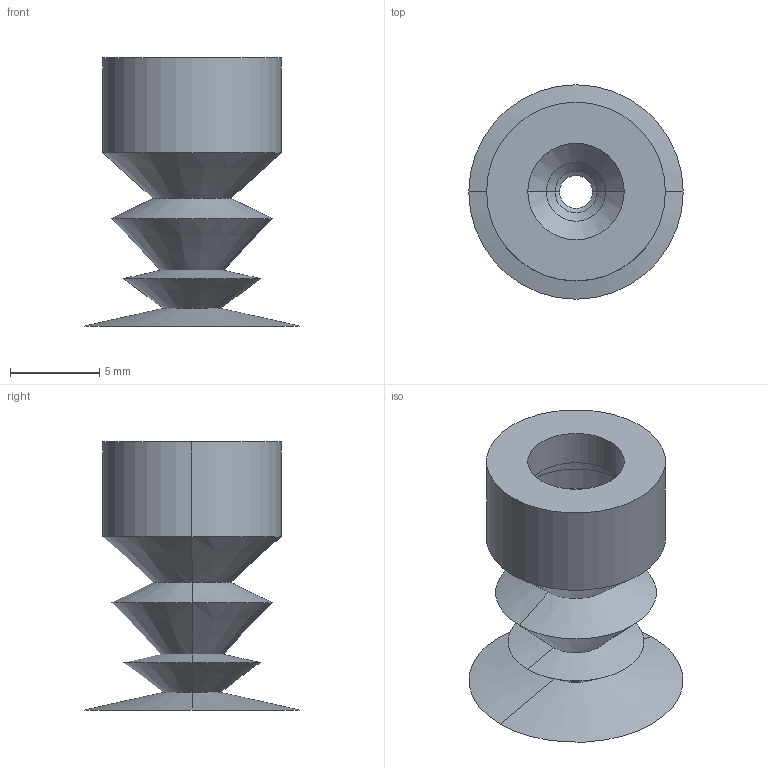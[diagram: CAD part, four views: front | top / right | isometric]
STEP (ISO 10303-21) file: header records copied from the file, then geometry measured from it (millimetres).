
FILE_DESCRIPTION (( 'STEP AP214' ), '1' );
FILE_NAME ('VSH3-S12.STEP', '2019-12-02T08:14:12', ( '微软用户' ), ( '微软中国' ), 'SwSTEP 2.0', 'SolidWorks 2016', '' );
FILE_SCHEMA (( 'AUTOMOTIVE_DESIGN' ));
Length unit declared in the file: millimetre
Products named in the file (1): VSH3-S12
Bounding box: 12 x 12 x 15 mm (x, y, z)
Volume: 281.6 mm3; surface area: 1167.3 mm2
Topology: 1 solids, 1 shells, 36 faces, 72 edges, 40 vertices
Faces by surface type: cone 24, cylinder 8, plane 4
Entity records: 962 total; most frequent: DIRECTION 186, CARTESIAN_POINT 149, ORIENTED_EDGE 144, AXIS2_PLACEMENT_3D 77, EDGE_CURVE 72, EDGE_LOOP 40, CIRCLE 40, VERTEX_POINT 40
